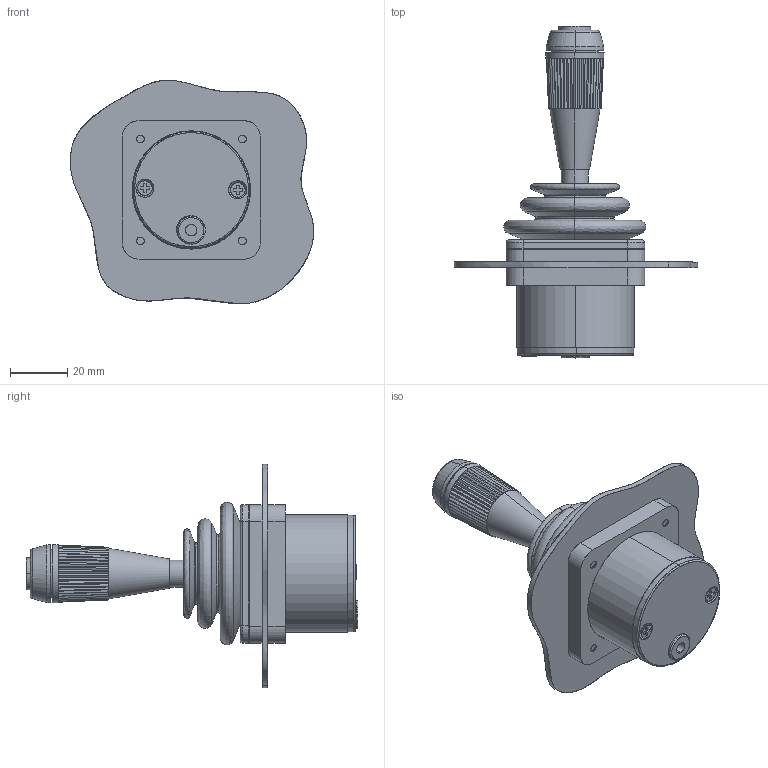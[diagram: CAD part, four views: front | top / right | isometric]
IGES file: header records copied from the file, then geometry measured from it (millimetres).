
Start section: SolidWorks IGES file using analytic representation for surfaces
Global section: file name: C:\SolidWorks-Projekte\Serie TRY10\TRY10_3514xx1.IGS; native system: SolidWorks 2006 by SolidWorks Corporation; preprocessor: SolidWorks 2006 by SolidWorks Corporation; author: FranzS; date: 060613.101111; units: millimetre
Bounding box: 85.05 x 115.94 x 78.1 mm (x, y, z)
Surface area: 51107.8 mm2 (no closed solid volume)
Topology: 0 solids, 0 shells, 554 faces, 8032 edges, 8027 vertices
Faces by surface type: bspline 372, revolution 182
